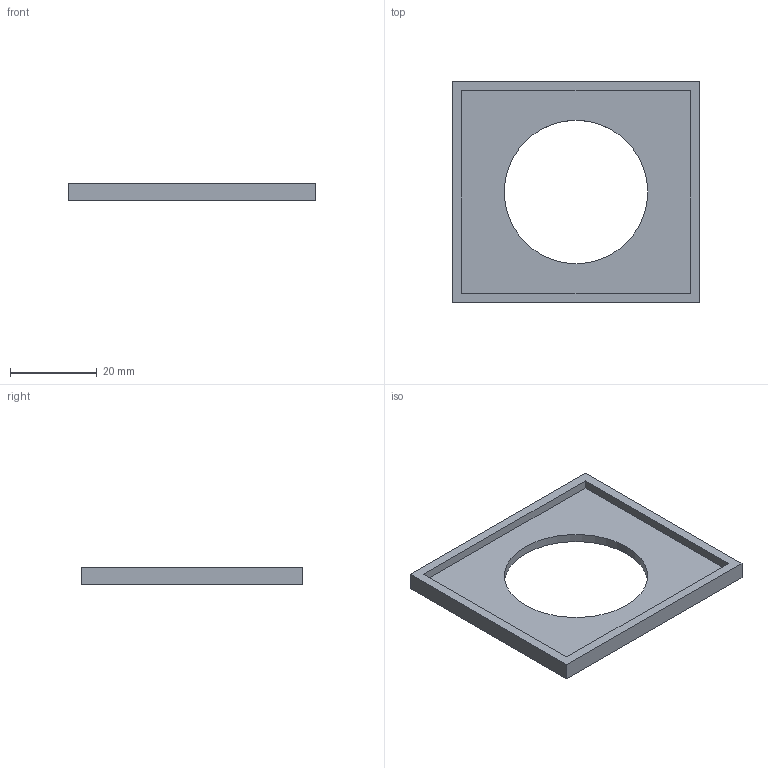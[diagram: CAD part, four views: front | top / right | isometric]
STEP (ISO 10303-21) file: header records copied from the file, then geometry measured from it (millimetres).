
FILE_DESCRIPTION(('FreeCAD Model'),'2;1');
FILE_NAME('Open CASCADE Shape Model','2026-11-20T08:25:39',('FreeCAD'),( 'FreeCAD'),'Open CASCADE STEP processor 7.8','FreeCAD','Unknown');
FILE_SCHEMA(('AUTOMOTIVE_DESIGN { 1 0 10303 214 1 1 1 1 }'));
Length unit declared in the file: millimetre
Products named in the file (1): Open CASCADE STEP translator 7.8 98
Bounding box: 57 x 51 x 4 mm (x, y, z)
Volume: 5015.1 mm3; surface area: 5571.5 mm2
Topology: 1 solids, 1 shells, 12 faces, 27 edges, 18 vertices
Faces by surface type: plane 11, cylinder 1
Full cylindrical faces by diameter (mm): 33 x1
Entity records: 347 total; most frequent: CARTESIAN_POINT 58, DIRECTION 55, ORIENTED_EDGE 54, EDGE_CURVE 27, LINE 25, VECTOR 25, VERTEX_POINT 18, AXIS2_PLACEMENT_3D 15
